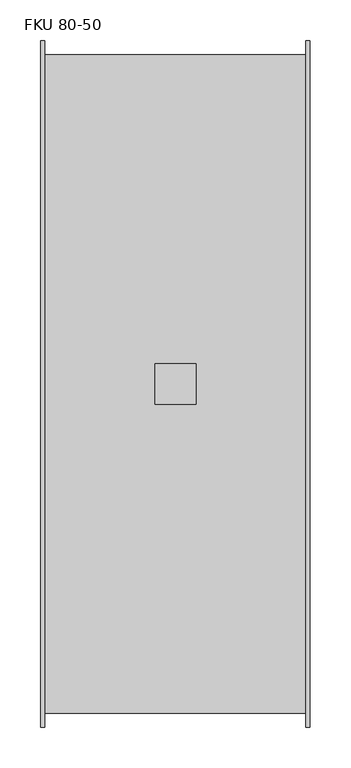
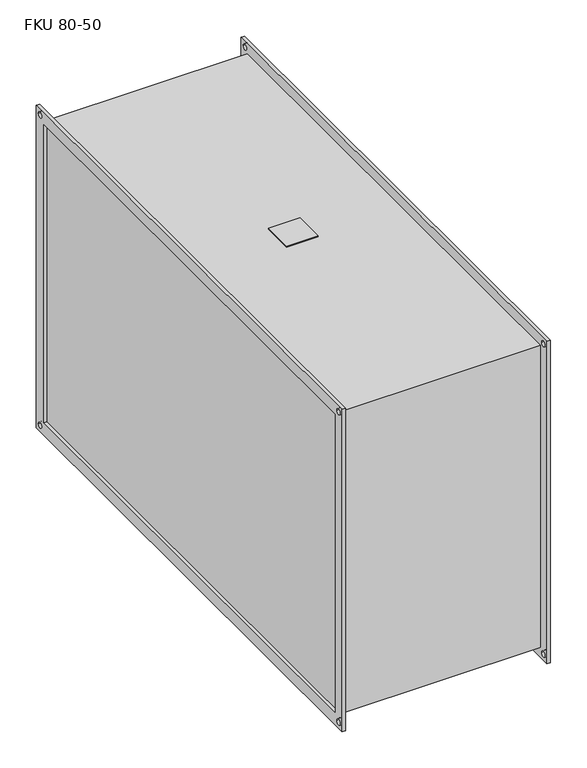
"""IFC4 building model written with IfcOpenShell, lengths in millimetres: damper geometry, KORF_Фильтр_Карманный_Укороченный_FKU : FKU 80-50."""

import ifcopenshell
import ifcopenshell.guid

model = None  # the IFC model being written
_history = None  # IfcOwnerHistory: only IFC2X3 demands one
_inside = {}  # id of a spatial element -> (the spatial element, [elements in it])
_under = {}  # id of a project, library or spatial element -> (it, [spatial elements below it])
_declared = {}  # id of a project -> (the project, [libraries it declares])
_typed = {}  # id of a type object -> (the type object, [elements of that type])
_made_of = {}  # id of a material, layer set ... -> (it, [elements and type objects made of it])


def new_model(schema):
    """Start an empty IFC model of exactly this schema.

    Asked for "IFC4X3", IfcOpenShell would pick the latest addendum, in which some entities
    have other attributes; the version numbers below select the first issue.
    IFC2X3 requires an IfcOwnerHistory on every rooted entity: one is made here for all.
    """
    global model, _history
    if schema == "IFC4X3":
        model = ifcopenshell.file(schema_version=(4, 3, 0, 0))
    else:
        model = ifcopenshell.file(schema=schema)
    _inside.clear()
    _under.clear()
    _declared.clear()
    _typed.clear()
    _made_of.clear()
    _history = None
    if model.schema == "IFC2X3":
        org = make("IfcOrganization", Name="unknown")
        user = make(
            "IfcPersonAndOrganization",
            ThePerson=make("IfcPerson", FamilyName="unknown"),
            TheOrganization=org,
        )
        app = make(
            "IfcApplication",
            ApplicationDeveloper=org,
            Version="unknown",
            ApplicationFullName="unknown",
            ApplicationIdentifier="unknown",
        )
        _history = make(
            "IfcOwnerHistory",
            OwningUser=user,
            OwningApplication=app,
            ChangeAction="ADDED",
            CreationDate=0,
        )
    return model


def make(cls, **values):
    """One entity of the class cls with the attributes given. An attribute that is None is left unset."""
    return model.create_entity(
        cls, **{name: value for name, value in values.items() if value is not None}
    )


def rooted(cls, **values):
    """An entity with a GlobalId (a new one), such as an element, a storey or a relation."""
    return make(cls, GlobalId=ifcopenshell.guid.new(), OwnerHistory=_history, **values)


def si_unit(unit_type, name, prefix=None):
    """IfcSIUnit, for example si_unit("LENGTHUNIT", "METRE", prefix="MILLI")."""
    return make("IfcSIUnit", UnitType=unit_type, Prefix=prefix, Name=name)


def assignment(units):
    """IfcUnitAssignment: the units of a project."""
    return None if units is None else make("IfcUnitAssignment", Units=units)


def point(xyz):
    """IfcCartesianPoint."""
    return None if xyz is None else make("IfcCartesianPoint", Coordinates=xyz)


def direction(xyz):
    """IfcDirection."""
    return None if xyz is None else make("IfcDirection", DirectionRatios=xyz)


def frame(location, z_axis=None, x_axis=None):
    """IfcAxis2Placement3D, a coordinate frame: its origin and axes. An axis left out is left unset."""
    return make(
        "IfcAxis2Placement3D",
        Location=point(location),
        Axis=direction(z_axis),
        RefDirection=direction(x_axis),
    )


def frame_2d(location, x_axis=None):
    """IfcAxis2Placement2D, a coordinate frame in the plane: its origin and x axis."""
    return make(
        "IfcAxis2Placement2D", Location=point(location), RefDirection=direction(x_axis)
    )


def origin():
    """The frame at (0, 0, 0) with its axes left unset."""
    return frame((0.0, 0.0, 0.0))


def place(relative_to, where):
    """IfcLocalPlacement: puts the frame where relative to a parent placement (None: the world)."""
    return make(
        "IfcLocalPlacement", PlacementRelTo=relative_to, RelativePlacement=where
    )


def context(
    kind, dimensions, precision=None, world=None, true_north=None, identifier=None
):
    """IfcGeometricRepresentationContext, for example the 3D "Model" context."""
    return make(
        "IfcGeometricRepresentationContext",
        ContextIdentifier=identifier,
        ContextType=kind,
        CoordinateSpaceDimension=dimensions,
        Precision=precision,
        WorldCoordinateSystem=world,
        TrueNorth=true_north,
    )


def project(units=None, contexts=None):
    """IfcProject with its units and contexts."""
    return rooted(
        "IfcProject",
        Name="project",
        RepresentationContexts=contexts,
        UnitsInContext=assignment(units),
    )


def spatial(cls, under=None, at=None, **own):
    """A site, building, storey or space (cls), placed at a placement, below another one or the project."""
    s = rooted(cls, ObjectPlacement=at, **own)
    if under is not None:
        _under.setdefault(under.id(), (under, []))[1].append(s)
    return s


def polyline(points):
    """IfcPolyline through the points."""
    return make("IfcPolyline", Points=[point(p) for p in points])


def circle_curve(where, radius):
    """IfcCircle in the frame where."""
    return make("IfcCircle", Position=where, Radius=radius)


def trimmed(basis, trim1, trim2, sense, master):
    """IfcTrimmedCurve: the piece of a basis curve between two trims."""
    return make(
        "IfcTrimmedCurve",
        BasisCurve=basis,
        Trim1=trim1,
        Trim2=trim2,
        SenseAgreement=sense,
        MasterRepresentation=master,
    )


def segment(curve, same_sense, transition):
    """IfcCompositeCurveSegment."""
    return make(
        "IfcCompositeCurveSegment",
        Transition=transition,
        SameSense=same_sense,
        ParentCurve=curve,
    )


def composite_curve(segments, self_intersect=None):
    """IfcCompositeCurve: segments joined end to end."""
    return make("IfcCompositeCurve", Segments=segments, SelfIntersect=self_intersect)


def outline(outer, holes=None, kind="AREA"):
    """IfcArbitraryClosedProfileDef: a profile drawn as a closed curve; with holes, ...WithVoids."""
    if holes is None:
        return make("IfcArbitraryClosedProfileDef", ProfileType=kind, OuterCurve=outer)
    return make(
        "IfcArbitraryProfileDefWithVoids",
        ProfileType=kind,
        OuterCurve=outer,
        InnerCurves=holes,
    )


def extrude(swept, where, along, depth):
    """IfcExtrudedAreaSolid: the profile swept, set in the frame where, extruded along a direction by depth."""
    return make(
        "IfcExtrudedAreaSolid",
        SweptArea=swept,
        Position=where,
        ExtrudedDirection=direction(along),
        Depth=depth,
    )


def shape(context_of_items, identifier, shape_type, items):
    """IfcShapeRepresentation: the items that make up one representation, for example the "Body"."""
    return make(
        "IfcShapeRepresentation",
        ContextOfItems=context_of_items,
        RepresentationIdentifier=identifier,
        RepresentationType=shape_type,
        Items=items,
    )


def source(mapping_origin, context_of_items, identifier, shape_type, items):
    """IfcRepresentationMap: a shape defined once, which mapped items show again and again."""
    return make(
        "IfcRepresentationMap",
        MappingOrigin=mapping_origin,
        MappedRepresentation=shape(context_of_items, identifier, shape_type, items),
    )


def transform(
    local_origin,
    x_axis=None,
    y_axis=None,
    z_axis=None,
    scale=None,
    scale2=None,
    scale3=None,
    uniform=True,
):
    """IfcCartesianTransformationOperator3D, or its non-uniform kind. x_axis, y_axis, z_axis: its Axis1, 2, 3."""
    if uniform:
        return make(
            "IfcCartesianTransformationOperator3D",
            Axis1=direction(x_axis),
            Axis2=direction(y_axis),
            LocalOrigin=point(local_origin),
            Scale=scale,
            Axis3=direction(z_axis),
        )
    return make(
        "IfcCartesianTransformationOperator3DnonUniform",
        Axis1=direction(x_axis),
        Axis2=direction(y_axis),
        LocalOrigin=point(local_origin),
        Scale=scale,
        Axis3=direction(z_axis),
        Scale2=scale2,
        Scale3=scale3,
    )


def mapped(mapping_source, mapping_target):
    """IfcMappedItem: shows the shape of a source again, moved by a transform."""
    return make(
        "IfcMappedItem", MappingSource=mapping_source, MappingTarget=mapping_target
    )


def made_of(thing, what):
    """Note that an element or type object is made of a material, layer set ...; save() writes the relation."""
    if what is not None:
        _made_of.setdefault(what.id(), (what, []))[1].append(thing)
    return thing


def element(
    cls,
    number,
    at=None,
    inside=None,
    cuts=None,
    type_object=None,
    material=None,
    context=None,
    identifier="Body",
    shape_type=None,
    held_by="IfcProductDefinitionShape",
    body=None,
    shapes=None,
    **own,
):
    """One element of the class cls, such as IfcWall. Its Tag is "e" and its number.

    at: its placement. inside: the storey or other place that contains it. cuts: it is an
    opening in that element (IfcRelVoidsElement). A single representation is given by context,
    identifier, shape_type and body (its items); several are given by shapes. held_by: the class
    of the entity that holds the representations. save() writes the other relations.
    """
    e = rooted(cls, Tag="e%d" % number, ObjectPlacement=at, **own)
    if body is not None:
        shapes = [shape(context, identifier, shape_type, body)]
    if shapes is not None:
        e.Representation = make(held_by, Representations=shapes)
    if inside is not None:
        _inside.setdefault(inside.id(), (inside, []))[1].append(e)
    if cuts is not None:
        rooted(
            "IfcRelVoidsElement", RelatingBuildingElement=cuts, RelatedOpeningElement=e
        )
    if type_object is not None:
        _typed.setdefault(type_object.id(), (type_object, []))[1].append(e)
    return made_of(e, material)


def aggregate(whole, parts):
    """IfcRelAggregates: a whole, such as a stair, and the parts it consists of."""
    return rooted("IfcRelAggregates", RelatingObject=whole, RelatedObjects=parts)


def save(model, path):
    """Write the relations noted so far, then the file.

    IfcRelAggregates (storeys below a building ...), IfcRelContainedInSpatialStructure (elements
    in a storey), IfcRelDefinesByType, IfcRelAssociatesMaterial and IfcRelDeclares: one each for
    every whole, place, type object, material and project.
    """
    for whole, parts in _under.values():
        aggregate(whole, parts)
    for where, things in _inside.values():
        rooted(
            "IfcRelContainedInSpatialStructure",
            RelatedElements=things,
            RelatingStructure=where,
        )
    for kind, things in _typed.values():
        rooted("IfcRelDefinesByType", RelatedObjects=things, RelatingType=kind)
    for what, things in _made_of.values():
        rooted("IfcRelAssociatesMaterial", RelatedObjects=things, RelatingMaterial=what)
    for by, libraries in _declared.values():
        rooted("IfcRelDeclares", RelatingContext=by, RelatedDefinitions=libraries)
    model.write(path)


def fku_80_50_0fca9827(model_context):
    return source(origin(), model_context, "Body", "SweptSolid", [
        extrude(outline(polyline([(140.0, -25.0), (140.0, 25.0), (190.0, 25.0), (190.0, -25.0), (140.0, -25.0)])), frame((0.0, 0.0, 253.0), z_axis=(0.0, 0.0, 1.0), x_axis=(1.0, 0.0, 0.0)), (0.0, 0.0, 1.0), 2.0),
        extrude(outline(polyline([(-420.0, 270.0), (420.0, 270.0), (420.0, -270.0), (-420.0, -270.0), (-420.0, 270.0)]), holes=[polyline([(-400.0, 250.0), (-400.0, -250.0), (400.0, -250.0), (400.0, 250.0), (-400.0, 250.0)]), composite_curve([segment(trimmed(circle_curve(frame_2d((410.0, 260.0)), 4.5), [point((405.5, 260.0))], [point((414.5, 260.0))], True, "CARTESIAN"), True, "CONTINUOUS"), segment(trimmed(circle_curve(frame_2d((410.0, 260.0)), 4.5), [point((414.5, 260.0))], [point((405.5, 260.0))], True, "CARTESIAN"), True, "CONTINUOUS")], self_intersect=False), composite_curve([segment(trimmed(circle_curve(frame_2d((-410.0, 260.0)), 4.5), [point((-414.5, 260.0))], [point((-405.5, 260.0))], True, "CARTESIAN"), True, "CONTINUOUS"), segment(trimmed(circle_curve(frame_2d((-410.0, 260.0)), 4.5), [point((-405.5, 260.0))], [point((-414.5, 260.0))], True, "CARTESIAN"), True, "CONTINUOUS")], self_intersect=False), composite_curve([segment(trimmed(circle_curve(frame_2d((-410.0, -260.0)), 4.5), [point((-414.5, -260.0))], [point((-405.5, -260.0))], True, "CARTESIAN"), True, "CONTINUOUS"), segment(trimmed(circle_curve(frame_2d((-410.0, -260.0)), 4.5), [point((-405.5, -260.0))], [point((-414.5, -260.0))], True, "CARTESIAN"), True, "CONTINUOUS")], self_intersect=False), composite_curve([segment(trimmed(circle_curve(frame_2d((410.0, -260.0)), 4.5), [point((405.5, -260.0))], [point((414.5, -260.0))], True, "CARTESIAN"), True, "CONTINUOUS"), segment(trimmed(circle_curve(frame_2d((410.0, -260.0)), 4.5), [point((414.5, -260.0))], [point((405.5, -260.0))], True, "CARTESIAN"), True, "CONTINUOUS")], self_intersect=False)]), frame((325.0, 0.0, 0.0), z_axis=(1.0, 0.0, 0.0), x_axis=(0.0, 1.0, 0.0)), (0.0, 0.0, 1.0), 5.0),
        extrude(outline(polyline([(-420.0, 270.0), (420.0, 270.0), (420.0, -270.0), (-420.0, -270.0), (-420.0, 270.0)]), holes=[polyline([(-400.0, 250.0), (-400.0, -250.0), (400.0, -250.0), (400.0, 250.0), (-400.0, 250.0)]), composite_curve([segment(trimmed(circle_curve(frame_2d((410.0, 260.0)), 4.5), [point((405.5, 260.0))], [point((414.5, 260.0))], True, "CARTESIAN"), True, "CONTINUOUS"), segment(trimmed(circle_curve(frame_2d((410.0, 260.0)), 4.5), [point((414.5, 260.0))], [point((405.5, 260.0))], True, "CARTESIAN"), True, "CONTINUOUS")], self_intersect=False), composite_curve([segment(trimmed(circle_curve(frame_2d((-410.0, 260.0)), 4.5), [point((-414.5, 260.0))], [point((-405.5, 260.0))], True, "CARTESIAN"), True, "CONTINUOUS"), segment(trimmed(circle_curve(frame_2d((-410.0, 260.0)), 4.5), [point((-405.5, 260.0))], [point((-414.5, 260.0))], True, "CARTESIAN"), True, "CONTINUOUS")], self_intersect=False), composite_curve([segment(trimmed(circle_curve(frame_2d((-410.0, -260.0)), 4.5), [point((-414.5, -260.0))], [point((-405.5, -260.0))], True, "CARTESIAN"), True, "CONTINUOUS"), segment(trimmed(circle_curve(frame_2d((-410.0, -260.0)), 4.5), [point((-405.5, -260.0))], [point((-414.5, -260.0))], True, "CARTESIAN"), True, "CONTINUOUS")], self_intersect=False), composite_curve([segment(trimmed(circle_curve(frame_2d((410.0, -260.0)), 4.5), [point((405.5, -260.0))], [point((414.5, -260.0))], True, "CARTESIAN"), True, "CONTINUOUS"), segment(trimmed(circle_curve(frame_2d((410.0, -260.0)), 4.5), [point((414.5, -260.0))], [point((405.5, -260.0))], True, "CARTESIAN"), True, "CONTINUOUS")], self_intersect=False)]), frame((0.0, 0.0, 0.0), z_axis=(1.0, 0.0, 0.0), x_axis=(0.0, 1.0, 0.0)), (0.0, 0.0, 1.0), 5.0),
        extrude(outline(polyline([(325.0, 403.0), (325.0, -403.0), (5.0, -403.0), (5.0, 403.0), (325.0, 403.0)])), frame((0.0, 0.0, -253.0), z_axis=(0.0, 0.0, 1.0), x_axis=(1.0, 0.0, 0.0)), (0.0, 0.0, 1.0), 506.0),
    ])


if __name__ == "__main__":
    model = new_model("IFC4")
    model_context = context("Model", 3, world=origin())
    ifc_project = project(units=[si_unit("LENGTHUNIT", "METRE", prefix="MILLI")], contexts=[model_context])
    site = spatial("IfcSite", under=ifc_project)
    building = spatial("IfcBuilding", under=site)
    placement = place(None, origin())
    fku_80_50_shape = fku_80_50_0fca9827(model_context)
    element("IfcDamper", 1, ObjectType="KORF_Фильтр_Карманный_Укороченный_FKU : FKU 80-50", at=placement, inside=building, context=model_context, shape_type="MappedRepresentation", body=[
        mapped(fku_80_50_shape, transform((0.0, 0.0, 0.0), x_axis=(1.0, 0.0, 0.0), y_axis=(0.0, 1.0, 0.0), z_axis=(0.0, 0.0, 1.0))),
    ])
    save(model, "model.ifc")
